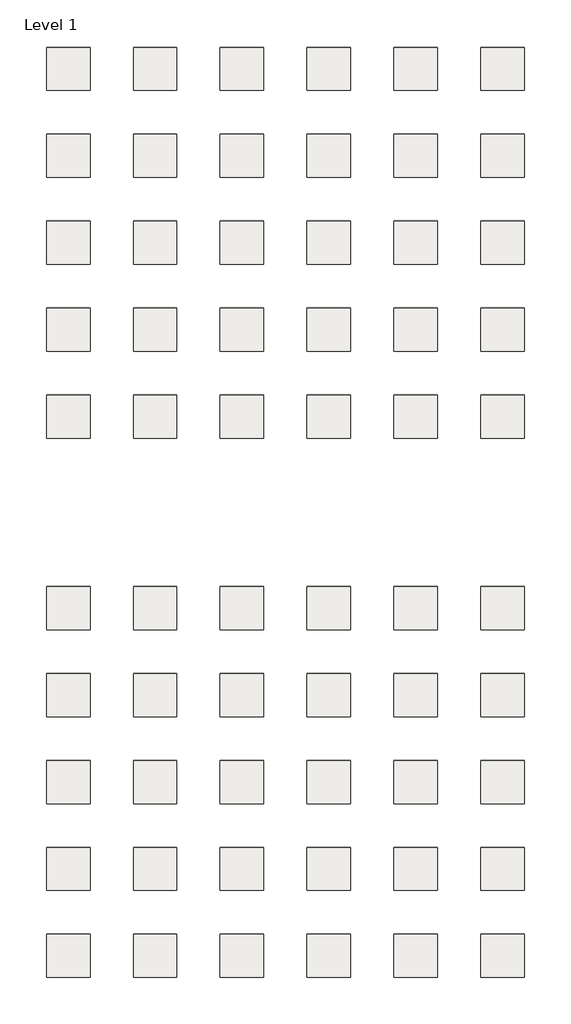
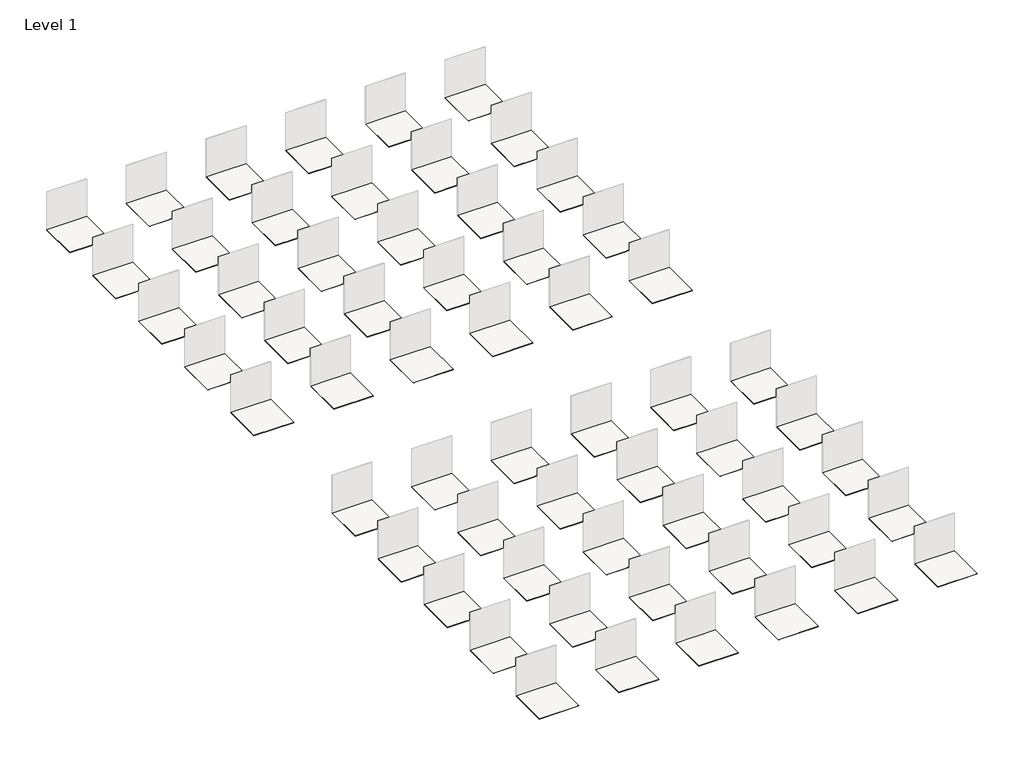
# One storey, part 2 of 2: 60 coverings.
"""IFC4 building model written with IfcOpenShell, lengths in millimetres."""

from ifc_helpers import new_model, si_unit, frame, origin, place, context, project, spatial, polyline, outline, extrude, element, save

model = new_model("IFC4")

# Units and contexts
model_context = context("Model", 3, world=origin())
ifc_project = project(units=[si_unit("LENGTHUNIT", "METRE", prefix="MILLI")], contexts=[model_context])

# Site, building, storey
site = spatial("IfcSite", under=ifc_project)
building = spatial("IfcBuilding", under=site)
storey = spatial("IfcBuildingStorey", under=building, Name="Level 1", Elevation=0.0)

# Coverings
placement = place(None, origin())
element("IfcCovering", 1, ObjectType="REVIGRÉS-OMNISTONE-BASE-30X60-MATTRECT-BONE", at=placement, inside=storey, context=model_context, shape_type="SweptSolid", body=[
    extrude(outline(polyline([(1008.2238844, 9811.2034686), (8.2238844, 9811.2034686), (8.2238844, 10811.2034686), (1008.2238844, 10811.2034686), (1008.2238844, 9811.2034686)])), frame((0.0, 0.0, -9.8), z_axis=(0.0, 0.0, 1.0), x_axis=(1.0, 0.0, 0.0)), (0.0, 0.0, 1.0), 9.8),
])
element("IfcCovering", 2, ObjectType="REVIGRÉS-OMNISTONE-BASE-60X60-MATTRECT-BONE", at=placement, inside=storey, context=model_context, shape_type="SweptSolid", body=[
    extrude(outline(polyline([(1008.2238844, 11811.2034686), (8.2238844, 11811.2034686), (8.2238844, 12811.2034686), (1008.2238844, 12811.2034686), (1008.2238844, 11811.2034686)])), frame((0.0, 0.0, -9.8), z_axis=(0.0, 0.0, 1.0), x_axis=(1.0, 0.0, 0.0)), (0.0, 0.0, 1.0), 9.8),
])
element("IfcCovering", 3, ObjectType="REVIGRÉS-OMNISTONE-BASE-60X120-MATTRECT-BONE", at=placement, inside=storey, context=model_context, shape_type="SweptSolid", body=[
    extrude(outline(polyline([(1008.2238844, 13811.2034686), (8.2238844, 13811.2034686), (8.2238844, 14811.2034686), (1008.2238844, 14811.2034686), (1008.2238844, 13811.2034686)])), frame((0.0, 0.0, -9.8), z_axis=(0.0, 0.0, 1.0), x_axis=(1.0, 0.0, 0.0)), (0.0, 0.0, 1.0), 9.8),
])
element("IfcCovering", 4, ObjectType="REVIGRÉS-OMNISTONE-BASE-45X90-MATTRECT-BONE", at=placement, inside=storey, context=model_context, shape_type="SweptSolid", body=[
    extrude(outline(polyline([(1008.2238844, 15811.2034686), (8.2238844, 15811.2034686), (8.2238844, 16811.2034686), (1008.2238844, 16811.2034686), (1008.2238844, 15811.2034686)])), frame((0.0, 0.0, -10.5), z_axis=(0.0, 0.0, 1.0), x_axis=(1.0, 0.0, 0.0)), (0.0, 0.0, 1.0), 10.5),
])
element("IfcCovering", 5, ObjectType="REVIGRÉS-OMNISTONE-BASE-90X90-MATTRECT-BONE", at=placement, inside=storey, context=model_context, shape_type="SweptSolid", body=[
    extrude(outline(polyline([(1008.2238844, 17811.2034686), (8.2238844, 17811.2034686), (8.2238844, 18811.2034686), (1008.2238844, 18811.2034686), (1008.2238844, 17811.2034686)])), frame((0.0, 0.0, -10.5), z_axis=(0.0, 0.0, 1.0), x_axis=(1.0, 0.0, 0.0)), (0.0, 0.0, 1.0), 10.5),
])
element("IfcCovering", 6, ObjectType="REVIGRÉS-OMNISTONE-BASE-30X60-SOFT-BONE", at=placement, inside=storey, context=model_context, shape_type="SweptSolid", body=[
    extrude(outline(polyline([(3008.2238844, 9811.2034686), (2008.2238844, 9811.2034686), (2008.2238844, 10811.2034686), (3008.2238844, 10811.2034686), (3008.2238844, 9811.2034686)])), frame((0.0, 0.0, -9.8), z_axis=(0.0, 0.0, 1.0), x_axis=(1.0, 0.0, 0.0)), (0.0, 0.0, 1.0), 9.8),
])
element("IfcCovering", 7, ObjectType="REVIGRÉS-OMNISTONE-BASE-60X60-SOFT-BONE", at=placement, inside=storey, context=model_context, shape_type="SweptSolid", body=[
    extrude(outline(polyline([(3008.2238844, 11811.2034686), (2008.2238844, 11811.2034686), (2008.2238844, 12811.2034686), (3008.2238844, 12811.2034686), (3008.2238844, 11811.2034686)])), frame((0.0, 0.0, -9.8), z_axis=(0.0, 0.0, 1.0), x_axis=(1.0, 0.0, 0.0)), (0.0, 0.0, 1.0), 9.8),
])
element("IfcCovering", 8, ObjectType="REVIGRÉS-OMNISTONE-BASE-60X120-SOFT-BONE", at=placement, inside=storey, context=model_context, shape_type="SweptSolid", body=[
    extrude(outline(polyline([(3008.2238844, 13811.2034686), (2008.2238844, 13811.2034686), (2008.2238844, 14811.2034686), (3008.2238844, 14811.2034686), (3008.2238844, 13811.2034686)])), frame((0.0, 0.0, -9.8), z_axis=(0.0, 0.0, 1.0), x_axis=(1.0, 0.0, 0.0)), (0.0, 0.0, 1.0), 9.8),
])
element("IfcCovering", 9, ObjectType="REVIGRÉS-OMNISTONE-BASE-45X90-SOFT-BONE", at=placement, inside=storey, context=model_context, shape_type="SweptSolid", body=[
    extrude(outline(polyline([(3008.2238844, 15811.2034686), (2008.2238844, 15811.2034686), (2008.2238844, 16811.2034686), (3008.2238844, 16811.2034686), (3008.2238844, 15811.2034686)])), frame((0.0, 0.0, -10.5), z_axis=(0.0, 0.0, 1.0), x_axis=(1.0, 0.0, 0.0)), (0.0, 0.0, 1.0), 10.5),
])
element("IfcCovering", 10, ObjectType="REVIGRÉS-OMNISTONE-BASE-90X90-SOFT-BONE", at=placement, inside=storey, context=model_context, shape_type="SweptSolid", body=[
    extrude(outline(polyline([(3008.2238844, 17811.2034686), (2008.2238844, 17811.2034686), (2008.2238844, 18811.2034686), (3008.2238844, 18811.2034686), (3008.2238844, 17811.2034686)])), frame((0.0, 0.0, -10.5), z_axis=(0.0, 0.0, 1.0), x_axis=(1.0, 0.0, 0.0)), (0.0, 0.0, 1.0), 10.5),
])
element("IfcCovering", 11, ObjectType="REVIGRÉS-OMNISTONE-BASE-30X60-MATTRECT-ICE", at=placement, inside=storey, context=model_context, shape_type="SweptSolid", body=[
    extrude(outline(polyline([(5008.2238844, 9811.2034686), (4008.2238844, 9811.2034686), (4008.2238844, 10811.2034686), (5008.2238844, 10811.2034686), (5008.2238844, 9811.2034686)])), frame((0.0, 0.0, -9.8), z_axis=(0.0, 0.0, 1.0), x_axis=(1.0, 0.0, 0.0)), (0.0, 0.0, 1.0), 9.8),
])
element("IfcCovering", 12, ObjectType="REVIGRÉS-OMNISTONE-BASE-60X60-MATTRECT-ICE", at=placement, inside=storey, context=model_context, shape_type="SweptSolid", body=[
    extrude(outline(polyline([(5008.2238844, 11811.2034686), (4008.2238844, 11811.2034686), (4008.2238844, 12811.2034686), (5008.2238844, 12811.2034686), (5008.2238844, 11811.2034686)])), frame((0.0, 0.0, -9.8), z_axis=(0.0, 0.0, 1.0), x_axis=(1.0, 0.0, 0.0)), (0.0, 0.0, 1.0), 9.8),
])
element("IfcCovering", 13, ObjectType="REVIGRÉS-OMNISTONE-BASE-60X120-MATTRECT-ICE", at=placement, inside=storey, context=model_context, shape_type="SweptSolid", body=[
    extrude(outline(polyline([(5008.2238844, 13811.2034686), (4008.2238844, 13811.2034686), (4008.2238844, 14811.2034686), (5008.2238844, 14811.2034686), (5008.2238844, 13811.2034686)])), frame((0.0, 0.0, -9.8), z_axis=(0.0, 0.0, 1.0), x_axis=(1.0, 0.0, 0.0)), (0.0, 0.0, 1.0), 9.8),
])
element("IfcCovering", 14, ObjectType="REVIGRÉS-OMNISTONE-BASE-45X90-MATTRECT-ICE", at=placement, inside=storey, context=model_context, shape_type="SweptSolid", body=[
    extrude(outline(polyline([(5008.2238844, 15811.2034686), (4008.2238844, 15811.2034686), (4008.2238844, 16811.2034686), (5008.2238844, 16811.2034686), (5008.2238844, 15811.2034686)])), frame((0.0, 0.0, -10.5), z_axis=(0.0, 0.0, 1.0), x_axis=(1.0, 0.0, 0.0)), (0.0, 0.0, 1.0), 10.5),
])
element("IfcCovering", 15, ObjectType="REVIGRÉS-OMNISTONE-BASE-90X90-MATTRECT-ICE", at=placement, inside=storey, context=model_context, shape_type="SweptSolid", body=[
    extrude(outline(polyline([(5008.2238844, 17811.2034686), (4008.2238844, 17811.2034686), (4008.2238844, 18811.2034686), (5008.2238844, 18811.2034686), (5008.2238844, 17811.2034686)])), frame((0.0, 0.0, -10.5), z_axis=(0.0, 0.0, 1.0), x_axis=(1.0, 0.0, 0.0)), (0.0, 0.0, 1.0), 10.5),
])
element("IfcCovering", 16, ObjectType="REVIGRÉS-OMNISTONE-BASE-30X60-SOFT-ICE", at=placement, inside=storey, context=model_context, shape_type="SweptSolid", body=[
    extrude(outline(polyline([(7008.2238844, 9811.2034686), (6008.2238844, 9811.2034686), (6008.2238844, 10811.2034686), (7008.2238844, 10811.2034686), (7008.2238844, 9811.2034686)])), frame((0.0, 0.0, -9.8), z_axis=(0.0, 0.0, 1.0), x_axis=(1.0, 0.0, 0.0)), (0.0, 0.0, 1.0), 9.8),
])
element("IfcCovering", 17, ObjectType="REVIGRÉS-OMNISTONE-BASE-60X60-SOFT-ICE", at=placement, inside=storey, context=model_context, shape_type="SweptSolid", body=[
    extrude(outline(polyline([(7008.2238844, 11811.2034686), (6008.2238844, 11811.2034686), (6008.2238844, 12811.2034686), (7008.2238844, 12811.2034686), (7008.2238844, 11811.2034686)])), frame((0.0, 0.0, -9.8), z_axis=(0.0, 0.0, 1.0), x_axis=(1.0, 0.0, 0.0)), (0.0, 0.0, 1.0), 9.8),
])
element("IfcCovering", 18, ObjectType="REVIGRÉS-OMNISTONE-BASE-60X120-SOFT-ICE", at=placement, inside=storey, context=model_context, shape_type="SweptSolid", body=[
    extrude(outline(polyline([(7008.2238844, 13811.2034686), (6008.2238844, 13811.2034686), (6008.2238844, 14811.2034686), (7008.2238844, 14811.2034686), (7008.2238844, 13811.2034686)])), frame((0.0, 0.0, -9.8), z_axis=(0.0, 0.0, 1.0), x_axis=(1.0, 0.0, 0.0)), (0.0, 0.0, 1.0), 9.8),
])
element("IfcCovering", 19, ObjectType="REVIGRÉS-OMNISTONE-BASE-45X90-SOFT-ICE", at=placement, inside=storey, context=model_context, shape_type="SweptSolid", body=[
    extrude(outline(polyline([(7008.2238844, 15811.2034686), (6008.2238844, 15811.2034686), (6008.2238844, 16811.2034686), (7008.2238844, 16811.2034686), (7008.2238844, 15811.2034686)])), frame((0.0, 0.0, -10.5), z_axis=(0.0, 0.0, 1.0), x_axis=(1.0, 0.0, 0.0)), (0.0, 0.0, 1.0), 10.5),
])
element("IfcCovering", 20, ObjectType="REVIGRÉS-OMNISTONE-BASE-90X90-SOFT-ICE", at=placement, inside=storey, context=model_context, shape_type="SweptSolid", body=[
    extrude(outline(polyline([(7008.2238844, 17811.2034686), (6008.2238844, 17811.2034686), (6008.2238844, 18811.2034686), (7008.2238844, 18811.2034686), (7008.2238844, 17811.2034686)])), frame((0.0, 0.0, -10.5), z_axis=(0.0, 0.0, 1.0), x_axis=(1.0, 0.0, 0.0)), (0.0, 0.0, 1.0), 10.5),
])
element("IfcCovering", 21, ObjectType="REVIGRÉS-OMNISTONE-BASE-30X60-MATTRECT-IRON", at=placement, inside=storey, context=model_context, shape_type="SweptSolid", body=[
    extrude(outline(polyline([(9008.2238844, 9811.2034686), (8008.2238844, 9811.2034686), (8008.2238844, 10811.2034686), (9008.2238844, 10811.2034686), (9008.2238844, 9811.2034686)])), frame((0.0, 0.0, -9.8), z_axis=(0.0, 0.0, 1.0), x_axis=(1.0, 0.0, 0.0)), (0.0, 0.0, 1.0), 9.8),
])
element("IfcCovering", 22, ObjectType="REVIGRÉS-OMNISTONE-BASE-60X60-MATTRECT-IRON", at=placement, inside=storey, context=model_context, shape_type="SweptSolid", body=[
    extrude(outline(polyline([(9008.2238844, 11811.2034686), (8008.2238844, 11811.2034686), (8008.2238844, 12811.2034686), (9008.2238844, 12811.2034686), (9008.2238844, 11811.2034686)])), frame((0.0, 0.0, -9.8), z_axis=(0.0, 0.0, 1.0), x_axis=(1.0, 0.0, 0.0)), (0.0, 0.0, 1.0), 9.8),
])
element("IfcCovering", 23, ObjectType="REVIGRÉS-OMNISTONE-BASE-60X120-MATTRECT-IRON", at=placement, inside=storey, context=model_context, shape_type="SweptSolid", body=[
    extrude(outline(polyline([(9008.2238844, 13811.2034686), (8008.2238844, 13811.2034686), (8008.2238844, 14811.2034686), (9008.2238844, 14811.2034686), (9008.2238844, 13811.2034686)])), frame((0.0, 0.0, -9.8), z_axis=(0.0, 0.0, 1.0), x_axis=(1.0, 0.0, 0.0)), (0.0, 0.0, 1.0), 9.8),
])
element("IfcCovering", 24, ObjectType="REVIGRÉS-OMNISTONE-BASE-45X90-MATTRECT-IRON", at=placement, inside=storey, context=model_context, shape_type="SweptSolid", body=[
    extrude(outline(polyline([(9008.2238844, 15811.2034686), (8008.2238844, 15811.2034686), (8008.2238844, 16811.2034686), (9008.2238844, 16811.2034686), (9008.2238844, 15811.2034686)])), frame((0.0, 0.0, -10.5), z_axis=(0.0, 0.0, 1.0), x_axis=(1.0, 0.0, 0.0)), (0.0, 0.0, 1.0), 10.5),
])
element("IfcCovering", 25, ObjectType="REVIGRÉS-OMNISTONE-BASE-90X90-MATTRECT-IRON", at=placement, inside=storey, context=model_context, shape_type="SweptSolid", body=[
    extrude(outline(polyline([(9008.2238844, 17811.2034686), (8008.2238844, 17811.2034686), (8008.2238844, 18811.2034686), (9008.2238844, 18811.2034686), (9008.2238844, 17811.2034686)])), frame((0.0, 0.0, -10.5), z_axis=(0.0, 0.0, 1.0), x_axis=(1.0, 0.0, 0.0)), (0.0, 0.0, 1.0), 10.5),
])
element("IfcCovering", 26, ObjectType="REVIGRÉS-OMNISTONE-BASE-30X60-SOFT-IRON", at=placement, inside=storey, context=model_context, shape_type="SweptSolid", body=[
    extrude(outline(polyline([(11008.2238844, 9811.2034686), (10008.2238844, 9811.2034686), (10008.2238844, 10811.2034686), (11008.2238844, 10811.2034686), (11008.2238844, 9811.2034686)])), frame((0.0, 0.0, -9.8), z_axis=(0.0, 0.0, 1.0), x_axis=(1.0, 0.0, 0.0)), (0.0, 0.0, 1.0), 9.8),
])
element("IfcCovering", 27, ObjectType="REVIGRÉS-OMNISTONE-BASE-60X60-SOFT-IRON", at=placement, inside=storey, context=model_context, shape_type="SweptSolid", body=[
    extrude(outline(polyline([(11008.2238844, 11811.2034686), (10008.2238844, 11811.2034686), (10008.2238844, 12811.2034686), (11008.2238844, 12811.2034686), (11008.2238844, 11811.2034686)])), frame((0.0, 0.0, -9.8), z_axis=(0.0, 0.0, 1.0), x_axis=(1.0, 0.0, 0.0)), (0.0, 0.0, 1.0), 9.8),
])
element("IfcCovering", 28, ObjectType="REVIGRÉS-OMNISTONE-BASE-60X120-SOFT-IRON", at=placement, inside=storey, context=model_context, shape_type="SweptSolid", body=[
    extrude(outline(polyline([(11008.2238844, 13811.2034686), (10008.2238844, 13811.2034686), (10008.2238844, 14811.2034686), (11008.2238844, 14811.2034686), (11008.2238844, 13811.2034686)])), frame((0.0, 0.0, -9.8), z_axis=(0.0, 0.0, 1.0), x_axis=(1.0, 0.0, 0.0)), (0.0, 0.0, 1.0), 9.8),
])
element("IfcCovering", 29, ObjectType="REVIGRÉS-OMNISTONE-BASE-45X90-SOFT-IRON", at=placement, inside=storey, context=model_context, shape_type="SweptSolid", body=[
    extrude(outline(polyline([(11008.2238844, 15811.2034686), (10008.2238844, 15811.2034686), (10008.2238844, 16811.2034686), (11008.2238844, 16811.2034686), (11008.2238844, 15811.2034686)])), frame((0.0, 0.0, -10.5), z_axis=(0.0, 0.0, 1.0), x_axis=(1.0, 0.0, 0.0)), (0.0, 0.0, 1.0), 10.5),
])
element("IfcCovering", 30, ObjectType="REVIGRÉS-OMNISTONE-BASE-90X90-SOFT-IRON", at=placement, inside=storey, context=model_context, shape_type="SweptSolid", body=[
    extrude(outline(polyline([(11008.2238844, 17811.2034686), (10008.2238844, 17811.2034686), (10008.2238844, 18811.2034686), (11008.2238844, 18811.2034686), (11008.2238844, 17811.2034686)])), frame((0.0, 0.0, -10.5), z_axis=(0.0, 0.0, 1.0), x_axis=(1.0, 0.0, 0.0)), (0.0, 0.0, 1.0), 10.5),
])
element("IfcCovering", 31, ObjectType="REVIGRÉS-OMNISTONE-BASE-30X60-MATTRECT-JET", at=placement, inside=storey, context=model_context, shape_type="SweptSolid", body=[
    extrude(outline(polyline([(1008.2238844, -2588.7965314), (8.2238844, -2588.7965314), (8.2238844, -1588.7965314), (1008.2238844, -1588.7965314), (1008.2238844, -2588.7965314)])), frame((0.0, 0.0, -9.8), z_axis=(0.0, 0.0, 1.0), x_axis=(1.0, 0.0, 0.0)), (0.0, 0.0, 1.0), 9.8),
])
element("IfcCovering", 32, ObjectType="REVIGRÉS-OMNISTONE-BASE-60X60-MATTRECT-JET", at=placement, inside=storey, context=model_context, shape_type="SweptSolid", body=[
    extrude(outline(polyline([(1008.2238844, -588.7965314), (8.2238844, -588.7965314), (8.2238844, 411.2034686), (1008.2238844, 411.2034686), (1008.2238844, -588.7965314)])), frame((0.0, 0.0, -9.8), z_axis=(0.0, 0.0, 1.0), x_axis=(1.0, 0.0, 0.0)), (0.0, 0.0, 1.0), 9.8),
])
element("IfcCovering", 33, ObjectType="REVIGRÉS-OMNISTONE-BASE-60X120-MATTRECT-JET", at=placement, inside=storey, context=model_context, shape_type="SweptSolid", body=[
    extrude(outline(polyline([(1008.2238844, 1411.2034686), (8.2238844, 1411.2034686), (8.2238844, 2411.2034686), (1008.2238844, 2411.2034686), (1008.2238844, 1411.2034686)])), frame((0.0, 0.0, -9.8), z_axis=(0.0, 0.0, 1.0), x_axis=(1.0, 0.0, 0.0)), (0.0, 0.0, 1.0), 9.8),
])
element("IfcCovering", 34, ObjectType="REVIGRÉS-OMNISTONE-BASE-45X90-MATTRECT-JET", at=placement, inside=storey, context=model_context, shape_type="SweptSolid", body=[
    extrude(outline(polyline([(1008.2238844, 3411.2034686), (8.2238844, 3411.2034686), (8.2238844, 4411.2034686), (1008.2238844, 4411.2034686), (1008.2238844, 3411.2034686)])), frame((0.0, 0.0, -10.5), z_axis=(0.0, 0.0, 1.0), x_axis=(1.0, 0.0, 0.0)), (0.0, 0.0, 1.0), 10.5),
])
element("IfcCovering", 35, ObjectType="REVIGRÉS-OMNISTONE-BASE-90X90-MATTRECT-JET", at=placement, inside=storey, context=model_context, shape_type="SweptSolid", body=[
    extrude(outline(polyline([(1008.2238844, 5411.2034686), (8.2238844, 5411.2034686), (8.2238844, 6411.2034686), (1008.2238844, 6411.2034686), (1008.2238844, 5411.2034686)])), frame((0.0, 0.0, -10.5), z_axis=(0.0, 0.0, 1.0), x_axis=(1.0, 0.0, 0.0)), (0.0, 0.0, 1.0), 10.5),
])
element("IfcCovering", 36, ObjectType="REVIGRÉS-OMNISTONE-BASE-30X60-SOFT-JET", at=placement, inside=storey, context=model_context, shape_type="SweptSolid", body=[
    extrude(outline(polyline([(3008.2238844, -2588.7965314), (2008.2238844, -2588.7965314), (2008.2238844, -1588.7965314), (3008.2238844, -1588.7965314), (3008.2238844, -2588.7965314)])), frame((0.0, 0.0, -9.8), z_axis=(0.0, 0.0, 1.0), x_axis=(1.0, 0.0, 0.0)), (0.0, 0.0, 1.0), 9.8),
])
element("IfcCovering", 37, ObjectType="REVIGRÉS-OMNISTONE-BASE-60X60-SOFT-JET", at=placement, inside=storey, context=model_context, shape_type="SweptSolid", body=[
    extrude(outline(polyline([(3008.2238844, -588.7965314), (2008.2238844, -588.7965314), (2008.2238844, 411.2034686), (3008.2238844, 411.2034686), (3008.2238844, -588.7965314)])), frame((0.0, 0.0, -9.8), z_axis=(0.0, 0.0, 1.0), x_axis=(1.0, 0.0, 0.0)), (0.0, 0.0, 1.0), 9.8),
])
element("IfcCovering", 38, ObjectType="REVIGRÉS-OMNISTONE-BASE-60X120-SOFT-JET", at=placement, inside=storey, context=model_context, shape_type="SweptSolid", body=[
    extrude(outline(polyline([(3008.2238844, 1411.2034686), (2008.2238844, 1411.2034686), (2008.2238844, 2411.2034686), (3008.2238844, 2411.2034686), (3008.2238844, 1411.2034686)])), frame((0.0, 0.0, -9.8), z_axis=(0.0, 0.0, 1.0), x_axis=(1.0, 0.0, 0.0)), (0.0, 0.0, 1.0), 9.8),
])
element("IfcCovering", 39, ObjectType="REVIGRÉS-OMNISTONE-BASE-45X90-SOFT-JET", at=placement, inside=storey, context=model_context, shape_type="SweptSolid", body=[
    extrude(outline(polyline([(3008.2238844, 3411.2034686), (2008.2238844, 3411.2034686), (2008.2238844, 4411.2034686), (3008.2238844, 4411.2034686), (3008.2238844, 3411.2034686)])), frame((0.0, 0.0, -10.5), z_axis=(0.0, 0.0, 1.0), x_axis=(1.0, 0.0, 0.0)), (0.0, 0.0, 1.0), 10.5),
])
element("IfcCovering", 40, ObjectType="REVIGRÉS-OMNISTONE-BASE-90X90-SOFT-JET", at=placement, inside=storey, context=model_context, shape_type="SweptSolid", body=[
    extrude(outline(polyline([(3008.2238844, 5411.2034686), (2008.2238844, 5411.2034686), (2008.2238844, 6411.2034686), (3008.2238844, 6411.2034686), (3008.2238844, 5411.2034686)])), frame((0.0, 0.0, -10.5), z_axis=(0.0, 0.0, 1.0), x_axis=(1.0, 0.0, 0.0)), (0.0, 0.0, 1.0), 10.5),
])
element("IfcCovering", 41, ObjectType="REVIGRÉS-OMNISTONE-BASE-30X60-MATTRECT-PLATINA", at=placement, inside=storey, context=model_context, shape_type="SweptSolid", body=[
    extrude(outline(polyline([(5008.2238844, -2588.7965314), (4008.2238844, -2588.7965314), (4008.2238844, -1588.7965314), (5008.2238844, -1588.7965314), (5008.2238844, -2588.7965314)])), frame((0.0, 0.0, -9.8), z_axis=(0.0, 0.0, 1.0), x_axis=(1.0, 0.0, 0.0)), (0.0, 0.0, 1.0), 9.8),
])
element("IfcCovering", 42, ObjectType="REVIGRÉS-OMNISTONE-BASE-60X60-MATTRECT-PLATINA", at=placement, inside=storey, context=model_context, shape_type="SweptSolid", body=[
    extrude(outline(polyline([(5008.2238844, -588.7965314), (4008.2238844, -588.7965314), (4008.2238844, 411.2034686), (5008.2238844, 411.2034686), (5008.2238844, -588.7965314)])), frame((0.0, 0.0, -9.8), z_axis=(0.0, 0.0, 1.0), x_axis=(1.0, 0.0, 0.0)), (0.0, 0.0, 1.0), 9.8),
])
element("IfcCovering", 43, ObjectType="REVIGRÉS-OMNISTONE-BASE-60X120-MATTRECT-PLATINA", at=placement, inside=storey, context=model_context, shape_type="SweptSolid", body=[
    extrude(outline(polyline([(5008.2238844, 1411.2034686), (4008.2238844, 1411.2034686), (4008.2238844, 2411.2034686), (5008.2238844, 2411.2034686), (5008.2238844, 1411.2034686)])), frame((0.0, 0.0, -9.8), z_axis=(0.0, 0.0, 1.0), x_axis=(1.0, 0.0, 0.0)), (0.0, 0.0, 1.0), 9.8),
])
element("IfcCovering", 44, ObjectType="REVIGRÉS-OMNISTONE-BASE-45X90-MATTRECT-PLATINA", at=placement, inside=storey, context=model_context, shape_type="SweptSolid", body=[
    extrude(outline(polyline([(5008.2238844, 3411.2034686), (4008.2238844, 3411.2034686), (4008.2238844, 4411.2034686), (5008.2238844, 4411.2034686), (5008.2238844, 3411.2034686)])), frame((0.0, 0.0, -10.5), z_axis=(0.0, 0.0, 1.0), x_axis=(1.0, 0.0, 0.0)), (0.0, 0.0, 1.0), 10.5),
])
element("IfcCovering", 45, ObjectType="REVIGRÉS-OMNISTONE-BASE-90X90-MATTRECT-PLATINA", at=placement, inside=storey, context=model_context, shape_type="SweptSolid", body=[
    extrude(outline(polyline([(5008.2238844, 5411.2034686), (4008.2238844, 5411.2034686), (4008.2238844, 6411.2034686), (5008.2238844, 6411.2034686), (5008.2238844, 5411.2034686)])), frame((0.0, 0.0, -10.5), z_axis=(0.0, 0.0, 1.0), x_axis=(1.0, 0.0, 0.0)), (0.0, 0.0, 1.0), 10.5),
])
element("IfcCovering", 46, ObjectType="REVIGRÉS-OMNISTONE-BASE-30X60-SOFT-PLATINA", at=placement, inside=storey, context=model_context, shape_type="SweptSolid", body=[
    extrude(outline(polyline([(7008.2238844, -2588.7965314), (6008.2238844, -2588.7965314), (6008.2238844, -1588.7965314), (7008.2238844, -1588.7965314), (7008.2238844, -2588.7965314)])), frame((0.0, 0.0, -9.8), z_axis=(0.0, 0.0, 1.0), x_axis=(1.0, 0.0, 0.0)), (0.0, 0.0, 1.0), 9.8),
])
element("IfcCovering", 47, ObjectType="REVIGRÉS-OMNISTONE-BASE-60X60-SOFT-PLATINA", at=placement, inside=storey, context=model_context, shape_type="SweptSolid", body=[
    extrude(outline(polyline([(7008.2238844, -588.7965314), (6008.2238844, -588.7965314), (6008.2238844, 411.2034686), (7008.2238844, 411.2034686), (7008.2238844, -588.7965314)])), frame((0.0, 0.0, -9.8), z_axis=(0.0, 0.0, 1.0), x_axis=(1.0, 0.0, 0.0)), (0.0, 0.0, 1.0), 9.8),
])
element("IfcCovering", 48, ObjectType="REVIGRÉS-OMNISTONE-BASE-60X120-SOFT-PLATINA", at=placement, inside=storey, context=model_context, shape_type="SweptSolid", body=[
    extrude(outline(polyline([(7008.2238844, 1411.2034686), (6008.2238844, 1411.2034686), (6008.2238844, 2411.2034686), (7008.2238844, 2411.2034686), (7008.2238844, 1411.2034686)])), frame((0.0, 0.0, -9.8), z_axis=(0.0, 0.0, 1.0), x_axis=(1.0, 0.0, 0.0)), (0.0, 0.0, 1.0), 9.8),
])
element("IfcCovering", 49, ObjectType="REVIGRÉS-OMNISTONE-BASE-45X90-SOFT-PLATINA", at=placement, inside=storey, context=model_context, shape_type="SweptSolid", body=[
    extrude(outline(polyline([(7008.2238844, 3411.2034686), (6008.2238844, 3411.2034686), (6008.2238844, 4411.2034686), (7008.2238844, 4411.2034686), (7008.2238844, 3411.2034686)])), frame((0.0, 0.0, -10.5), z_axis=(0.0, 0.0, 1.0), x_axis=(1.0, 0.0, 0.0)), (0.0, 0.0, 1.0), 10.5),
])
element("IfcCovering", 50, ObjectType="REVIGRÉS-OMNISTONE-BASE-90X90-SOFT-PLATINA", at=placement, inside=storey, context=model_context, shape_type="SweptSolid", body=[
    extrude(outline(polyline([(7008.2238844, 5411.2034686), (6008.2238844, 5411.2034686), (6008.2238844, 6411.2034686), (7008.2238844, 6411.2034686), (7008.2238844, 5411.2034686)])), frame((0.0, 0.0, -10.5), z_axis=(0.0, 0.0, 1.0), x_axis=(1.0, 0.0, 0.0)), (0.0, 0.0, 1.0), 10.5),
])
element("IfcCovering", 51, ObjectType="REVIGRÉS-OMNISTONE-BASE-30X60-MATTRECT-ROPE", at=placement, inside=storey, context=model_context, shape_type="SweptSolid", body=[
    extrude(outline(polyline([(9008.2238844, -2588.7965314), (8008.2238844, -2588.7965314), (8008.2238844, -1588.7965314), (9008.2238844, -1588.7965314), (9008.2238844, -2588.7965314)])), frame((0.0, 0.0, -9.8), z_axis=(0.0, 0.0, 1.0), x_axis=(1.0, 0.0, 0.0)), (0.0, 0.0, 1.0), 9.8),
])
element("IfcCovering", 52, ObjectType="REVIGRÉS-OMNISTONE-BASE-60X60-MATTRECT-ROPE", at=placement, inside=storey, context=model_context, shape_type="SweptSolid", body=[
    extrude(outline(polyline([(9008.2238844, -588.7965314), (8008.2238844, -588.7965314), (8008.2238844, 411.2034686), (9008.2238844, 411.2034686), (9008.2238844, -588.7965314)])), frame((0.0, 0.0, -9.8), z_axis=(0.0, 0.0, 1.0), x_axis=(1.0, 0.0, 0.0)), (0.0, 0.0, 1.0), 9.8),
])
element("IfcCovering", 53, ObjectType="REVIGRÉS-OMNISTONE-BASE-60X120-MATTRECT-ROPE", at=placement, inside=storey, context=model_context, shape_type="SweptSolid", body=[
    extrude(outline(polyline([(9008.2238844, 1411.2034686), (8008.2238844, 1411.2034686), (8008.2238844, 2411.2034686), (9008.2238844, 2411.2034686), (9008.2238844, 1411.2034686)])), frame((0.0, 0.0, -9.8), z_axis=(0.0, 0.0, 1.0), x_axis=(1.0, 0.0, 0.0)), (0.0, 0.0, 1.0), 9.8),
])
element("IfcCovering", 54, ObjectType="REVIGRÉS-OMNISTONE-BASE-45X90-MATTRECT-ROPE", at=placement, inside=storey, context=model_context, shape_type="SweptSolid", body=[
    extrude(outline(polyline([(9008.2238844, 3411.2034686), (8008.2238844, 3411.2034686), (8008.2238844, 4411.2034686), (9008.2238844, 4411.2034686), (9008.2238844, 3411.2034686)])), frame((0.0, 0.0, -10.5), z_axis=(0.0, 0.0, 1.0), x_axis=(1.0, 0.0, 0.0)), (0.0, 0.0, 1.0), 10.5),
])
element("IfcCovering", 55, ObjectType="REVIGRÉS-OMNISTONE-BASE-90X90-MATTRECT-ROPE", at=placement, inside=storey, context=model_context, shape_type="SweptSolid", body=[
    extrude(outline(polyline([(9008.2238844, 5411.2034686), (8008.2238844, 5411.2034686), (8008.2238844, 6411.2034686), (9008.2238844, 6411.2034686), (9008.2238844, 5411.2034686)])), frame((0.0, 0.0, -10.5), z_axis=(0.0, 0.0, 1.0), x_axis=(1.0, 0.0, 0.0)), (0.0, 0.0, 1.0), 10.5),
])
element("IfcCovering", 56, ObjectType="REVIGRÉS-OMNISTONE-BASE-30X60-SOFT-ROPE", at=placement, inside=storey, context=model_context, shape_type="SweptSolid", body=[
    extrude(outline(polyline([(11008.2238844, -2588.7965314), (10008.2238844, -2588.7965314), (10008.2238844, -1588.7965314), (11008.2238844, -1588.7965314), (11008.2238844, -2588.7965314)])), frame((0.0, 0.0, -9.8), z_axis=(0.0, 0.0, 1.0), x_axis=(1.0, 0.0, 0.0)), (0.0, 0.0, 1.0), 9.8),
])
element("IfcCovering", 57, ObjectType="REVIGRÉS-OMNISTONE-BASE-60X60-SOFT-ROPE", at=placement, inside=storey, context=model_context, shape_type="SweptSolid", body=[
    extrude(outline(polyline([(11008.2238844, -588.7965314), (10008.2238844, -588.7965314), (10008.2238844, 411.2034686), (11008.2238844, 411.2034686), (11008.2238844, -588.7965314)])), frame((0.0, 0.0, -9.8), z_axis=(0.0, 0.0, 1.0), x_axis=(1.0, 0.0, 0.0)), (0.0, 0.0, 1.0), 9.8),
])
element("IfcCovering", 58, ObjectType="REVIGRÉS-OMNISTONE-BASE-60X120-SOFT-ROPE", at=placement, inside=storey, context=model_context, shape_type="SweptSolid", body=[
    extrude(outline(polyline([(11008.2238844, 1411.2034686), (10008.2238844, 1411.2034686), (10008.2238844, 2411.2034686), (11008.2238844, 2411.2034686), (11008.2238844, 1411.2034686)])), frame((0.0, 0.0, -9.8), z_axis=(0.0, 0.0, 1.0), x_axis=(1.0, 0.0, 0.0)), (0.0, 0.0, 1.0), 9.8),
])
element("IfcCovering", 59, ObjectType="REVIGRÉS-OMNISTONE-BASE-45X90-SOFT-ROPE", at=placement, inside=storey, context=model_context, shape_type="SweptSolid", body=[
    extrude(outline(polyline([(11008.2238844, 3411.2034686), (10008.2238844, 3411.2034686), (10008.2238844, 4411.2034686), (11008.2238844, 4411.2034686), (11008.2238844, 3411.2034686)])), frame((0.0, 0.0, -10.5), z_axis=(0.0, 0.0, 1.0), x_axis=(1.0, 0.0, 0.0)), (0.0, 0.0, 1.0), 10.5),
])
element("IfcCovering", 60, ObjectType="REVIGRÉS-OMNISTONE-BASE-90X90-SOFT-ROPE", at=placement, inside=storey, context=model_context, shape_type="SweptSolid", body=[
    extrude(outline(polyline([(11008.2238844, 5411.2034686), (10008.2238844, 5411.2034686), (10008.2238844, 6411.2034686), (11008.2238844, 6411.2034686), (11008.2238844, 5411.2034686)])), frame((0.0, 0.0, -10.5), z_axis=(0.0, 0.0, 1.0), x_axis=(1.0, 0.0, 0.0)), (0.0, 0.0, 1.0), 10.5),
])

save(model, "model.ifc")
